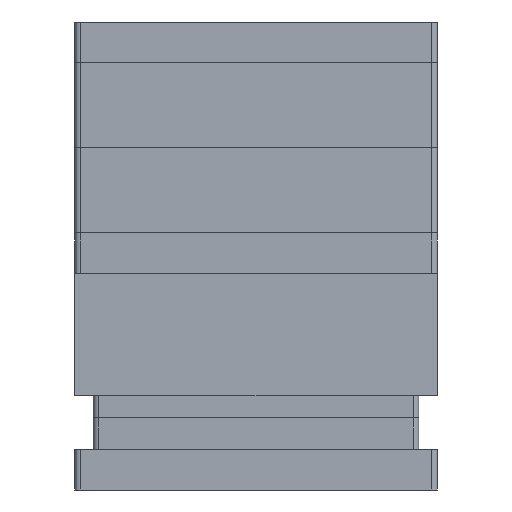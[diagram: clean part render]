
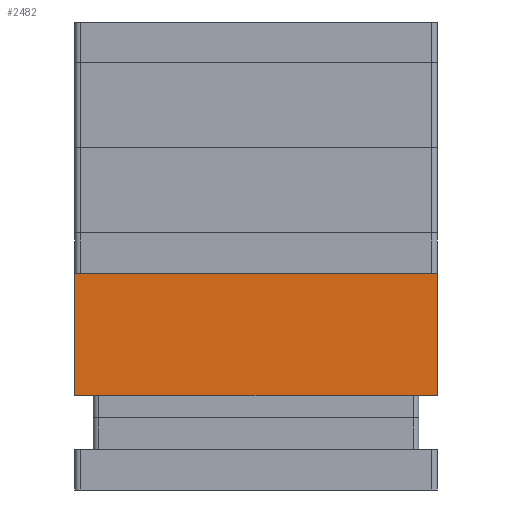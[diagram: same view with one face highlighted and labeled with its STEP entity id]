
A CAD part, left-side view. The second image highlights one B-rep face of the part: STEP entity #2482.
In plain terms, the highlighted planar face has unit normal (-1, 0, 0).
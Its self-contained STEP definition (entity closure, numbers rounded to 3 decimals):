
#2482 = ADVANCED_FACE('',(#2483),#2497,.F.);
#2483 = FACE_BOUND('',#2484,.F.);
#2484 = EDGE_LOOP('',(#2485,#2520,#2548,#2576));
#2485 = ORIENTED_EDGE('',*,*,#2486,.F.);
#2486 = EDGE_CURVE('',#2487,#2489,#2491,.T.);
#2487 = VERTEX_POINT('',#2488);
#2488 = CARTESIAN_POINT('',(-78.,-98.,0.));
#2489 = VERTEX_POINT('',#2490);
#2490 = CARTESIAN_POINT('',(-78.,-98.,66.));
#2491 = SURFACE_CURVE('',#2492,(#2496,#2508),.PCURVE_S1.);
#2492 = LINE('',#2493,#2494);
#2493 = CARTESIAN_POINT('',(-78.,-98.,0.));
#2494 = VECTOR('',#2495,1.);
#2495 = DIRECTION('',(0.,0.,1.));
#2496 = PCURVE('',#2497,#2502);
#2497 = PLANE('',#2498);
#2498 = AXIS2_PLACEMENT_3D('',#2499,#2500,#2501);
#2499 = CARTESIAN_POINT('',(-78.,-98.,0.));
#2500 = DIRECTION('',(1.,0.,0.));
#2501 = DIRECTION('',(0.,0.,1.));
#2502 = DEFINITIONAL_REPRESENTATION('',(#2503),#2507);
#2503 = LINE('',#2504,#2505);
#2504 = CARTESIAN_POINT('',(0.,0.));
#2505 = VECTOR('',#2506,1.);
#2506 = DIRECTION('',(1.,0.));
#2507 = ( GEOMETRIC_REPRESENTATION_CONTEXT(2) 
PARAMETRIC_REPRESENTATION_CONTEXT() REPRESENTATION_CONTEXT('2D SPACE',''
  ) );
#2508 = PCURVE('',#2509,#2514);
#2509 = PLANE('',#2510);
#2510 = AXIS2_PLACEMENT_3D('',#2511,#2512,#2513);
#2511 = CARTESIAN_POINT('',(-78.,-98.,0.));
#2512 = DIRECTION('',(0.,1.,0.));
#2513 = DIRECTION('',(0.,0.,1.));
#2514 = DEFINITIONAL_REPRESENTATION('',(#2515),#2519);
#2515 = LINE('',#2516,#2517);
#2516 = CARTESIAN_POINT('',(0.,0.));
#2517 = VECTOR('',#2518,1.);
#2518 = DIRECTION('',(1.,0.));
#2519 = ( GEOMETRIC_REPRESENTATION_CONTEXT(2) 
PARAMETRIC_REPRESENTATION_CONTEXT() REPRESENTATION_CONTEXT('2D SPACE',''
  ) );
#2520 = ORIENTED_EDGE('',*,*,#2521,.T.);
#2521 = EDGE_CURVE('',#2487,#2522,#2524,.T.);
#2522 = VERTEX_POINT('',#2523);
#2523 = CARTESIAN_POINT('',(-78.,98.,0.));
#2524 = SURFACE_CURVE('',#2525,(#2529,#2536),.PCURVE_S1.);
#2525 = LINE('',#2526,#2527);
#2526 = CARTESIAN_POINT('',(-78.,-98.,0.));
#2527 = VECTOR('',#2528,1.);
#2528 = DIRECTION('',(0.,1.,0.));
#2529 = PCURVE('',#2497,#2530);
#2530 = DEFINITIONAL_REPRESENTATION('',(#2531),#2535);
#2531 = LINE('',#2532,#2533);
#2532 = CARTESIAN_POINT('',(0.,0.));
#2533 = VECTOR('',#2534,1.);
#2534 = DIRECTION('',(0.,-1.));
#2535 = ( GEOMETRIC_REPRESENTATION_CONTEXT(2) 
PARAMETRIC_REPRESENTATION_CONTEXT() REPRESENTATION_CONTEXT('2D SPACE',''
  ) );
#2536 = PCURVE('',#2537,#2542);
#2537 = PLANE('',#2538);
#2538 = AXIS2_PLACEMENT_3D('',#2539,#2540,#2541);
#2539 = CARTESIAN_POINT('',(-78.,-98.,0.));
#2540 = DIRECTION('',(0.,0.,1.));
#2541 = DIRECTION('',(1.,0.,0.));
#2542 = DEFINITIONAL_REPRESENTATION('',(#2543),#2547);
#2543 = LINE('',#2544,#2545);
#2544 = CARTESIAN_POINT('',(0.,0.));
#2545 = VECTOR('',#2546,1.);
#2546 = DIRECTION('',(0.,1.));
#2547 = ( GEOMETRIC_REPRESENTATION_CONTEXT(2) 
PARAMETRIC_REPRESENTATION_CONTEXT() REPRESENTATION_CONTEXT('2D SPACE',''
  ) );
#2548 = ORIENTED_EDGE('',*,*,#2549,.T.);
#2549 = EDGE_CURVE('',#2522,#2550,#2552,.T.);
#2550 = VERTEX_POINT('',#2551);
#2551 = CARTESIAN_POINT('',(-78.,98.,66.));
#2552 = SURFACE_CURVE('',#2553,(#2557,#2564),.PCURVE_S1.);
#2553 = LINE('',#2554,#2555);
#2554 = CARTESIAN_POINT('',(-78.,98.,0.));
#2555 = VECTOR('',#2556,1.);
#2556 = DIRECTION('',(0.,0.,1.));
#2557 = PCURVE('',#2497,#2558);
#2558 = DEFINITIONAL_REPRESENTATION('',(#2559),#2563);
#2559 = LINE('',#2560,#2561);
#2560 = CARTESIAN_POINT('',(0.,-196.));
#2561 = VECTOR('',#2562,1.);
#2562 = DIRECTION('',(1.,0.));
#2563 = ( GEOMETRIC_REPRESENTATION_CONTEXT(2) 
PARAMETRIC_REPRESENTATION_CONTEXT() REPRESENTATION_CONTEXT('2D SPACE',''
  ) );
#2564 = PCURVE('',#2565,#2570);
#2565 = PLANE('',#2566);
#2566 = AXIS2_PLACEMENT_3D('',#2567,#2568,#2569);
#2567 = CARTESIAN_POINT('',(-78.,98.,0.));
#2568 = DIRECTION('',(0.,1.,0.));
#2569 = DIRECTION('',(0.,0.,1.));
#2570 = DEFINITIONAL_REPRESENTATION('',(#2571),#2575);
#2571 = LINE('',#2572,#2573);
#2572 = CARTESIAN_POINT('',(0.,0.));
#2573 = VECTOR('',#2574,1.);
#2574 = DIRECTION('',(1.,0.));
#2575 = ( GEOMETRIC_REPRESENTATION_CONTEXT(2) 
PARAMETRIC_REPRESENTATION_CONTEXT() REPRESENTATION_CONTEXT('2D SPACE',''
  ) );
#2576 = ORIENTED_EDGE('',*,*,#2577,.F.);
#2577 = EDGE_CURVE('',#2489,#2550,#2578,.T.);
#2578 = SURFACE_CURVE('',#2579,(#2583,#2590),.PCURVE_S1.);
#2579 = LINE('',#2580,#2581);
#2580 = CARTESIAN_POINT('',(-78.,-98.,66.));
#2581 = VECTOR('',#2582,1.);
#2582 = DIRECTION('',(0.,1.,0.));
#2583 = PCURVE('',#2497,#2584);
#2584 = DEFINITIONAL_REPRESENTATION('',(#2585),#2589);
#2585 = LINE('',#2586,#2587);
#2586 = CARTESIAN_POINT('',(66.,0.));
#2587 = VECTOR('',#2588,1.);
#2588 = DIRECTION('',(0.,-1.));
#2589 = ( GEOMETRIC_REPRESENTATION_CONTEXT(2) 
PARAMETRIC_REPRESENTATION_CONTEXT() REPRESENTATION_CONTEXT('2D SPACE',''
  ) );
#2590 = PCURVE('',#2591,#2596);
#2591 = PLANE('',#2592);
#2592 = AXIS2_PLACEMENT_3D('',#2593,#2594,#2595);
#2593 = CARTESIAN_POINT('',(-78.,-98.,66.));
#2594 = DIRECTION('',(0.,0.,1.));
#2595 = DIRECTION('',(1.,0.,0.));
#2596 = DEFINITIONAL_REPRESENTATION('',(#2597),#2601);
#2597 = LINE('',#2598,#2599);
#2598 = CARTESIAN_POINT('',(0.,0.));
#2599 = VECTOR('',#2600,1.);
#2600 = DIRECTION('',(0.,1.));
#2601 = ( GEOMETRIC_REPRESENTATION_CONTEXT(2) 
PARAMETRIC_REPRESENTATION_CONTEXT() REPRESENTATION_CONTEXT('2D SPACE',''
  ) );
